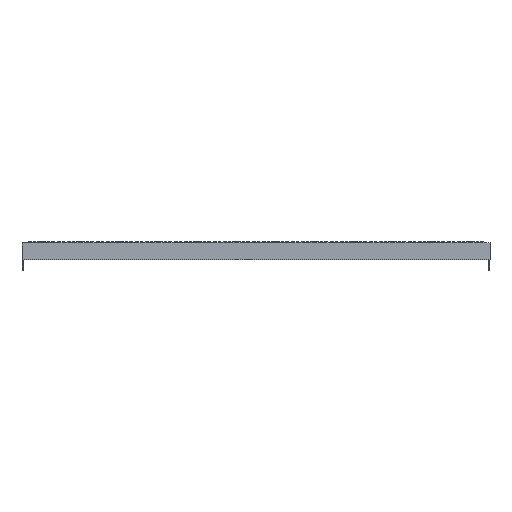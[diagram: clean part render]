
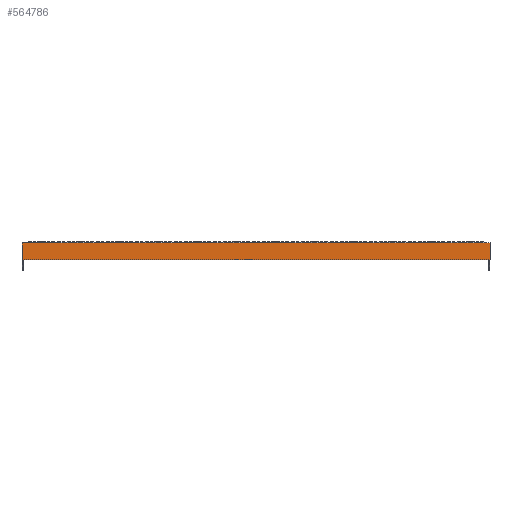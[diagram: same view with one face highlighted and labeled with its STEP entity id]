
A CAD part, front view. The second image highlights one B-rep face of the part: STEP entity #564786.
In plain terms, the highlighted planar face has unit normal (0, -1, 0).
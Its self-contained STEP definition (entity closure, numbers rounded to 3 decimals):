
#564786 = ADVANCED_FACE('',(#564787),#564801,.T.);
#564787 = FACE_BOUND('',#564788,.T.);
#564788 = EDGE_LOOP('',(#564789,#564812,#564828,#564844));
#564789 = ORIENTED_EDGE('',*,*,#564790,.T.);
#564790 = EDGE_CURVE('',#564791,#564793,#564795,.T.);
#564791 = VERTEX_POINT('',#564792);
#564792 = CARTESIAN_POINT('',(7200.,8720.,
    0.));
#564793 = VERTEX_POINT('',#564794);
#564794 = CARTESIAN_POINT('',(6000.,8720.,
    0.));
#564795 = SURFACE_CURVE('',#564796,(#564800),.PCURVE_S1.);
#564796 = LINE('',#564797,#564798);
#564797 = CARTESIAN_POINT('',(7200.,8720.,
    0.));
#564798 = VECTOR('',#564799,1.);
#564799 = DIRECTION('',(-1.,0.,0.));
#564800 = PCURVE('',#564801,#564806);
#564801 = PLANE('',#564802);
#564802 = AXIS2_PLACEMENT_3D('',#564803,#564804,#564805);
#564803 = CARTESIAN_POINT('',(6600.,8720.,
    -21.25));
#564804 = DIRECTION('',(0.,-1.,0.));
#564805 = DIRECTION('',(0.,0.,-1.));
#564806 = DEFINITIONAL_REPRESENTATION('',(#564807),#564811);
#564807 = LINE('',#564808,#564809);
#564808 = CARTESIAN_POINT('',(-21.25,600.));
#564809 = VECTOR('',#564810,1.);
#564810 = DIRECTION('',(0.,-1.));
#564811 = ( GEOMETRIC_REPRESENTATION_CONTEXT(2) 
PARAMETRIC_REPRESENTATION_CONTEXT() REPRESENTATION_CONTEXT('2D SPACE',''
  ) );
#564812 = ORIENTED_EDGE('',*,*,#564813,.T.);
#564813 = EDGE_CURVE('',#564793,#564814,#564816,.T.);
#564814 = VERTEX_POINT('',#564815);
#564815 = CARTESIAN_POINT('',(6000.,8720.,-42.5)
  );
#564816 = SURFACE_CURVE('',#564817,(#564821),.PCURVE_S1.);
#564817 = LINE('',#564818,#564819);
#564818 = CARTESIAN_POINT('',(6000.,8720.,
    0.));
#564819 = VECTOR('',#564820,1.);
#564820 = DIRECTION('',(0.,0.,-1.));
#564821 = PCURVE('',#564801,#564822);
#564822 = DEFINITIONAL_REPRESENTATION('',(#564823),#564827);
#564823 = LINE('',#564824,#564825);
#564824 = CARTESIAN_POINT('',(-21.25,-600.));
#564825 = VECTOR('',#564826,1.);
#564826 = DIRECTION('',(1.,0.));
#564827 = ( GEOMETRIC_REPRESENTATION_CONTEXT(2) 
PARAMETRIC_REPRESENTATION_CONTEXT() REPRESENTATION_CONTEXT('2D SPACE',''
  ) );
#564828 = ORIENTED_EDGE('',*,*,#564829,.T.);
#564829 = EDGE_CURVE('',#564814,#564830,#564832,.T.);
#564830 = VERTEX_POINT('',#564831);
#564831 = CARTESIAN_POINT('',(7200.,8720.,
    -42.5));
#564832 = SURFACE_CURVE('',#564833,(#564837),.PCURVE_S1.);
#564833 = LINE('',#564834,#564835);
#564834 = CARTESIAN_POINT('',(6000.,8720.,-42.5)
  );
#564835 = VECTOR('',#564836,1.);
#564836 = DIRECTION('',(1.,0.,0.));
#564837 = PCURVE('',#564801,#564838);
#564838 = DEFINITIONAL_REPRESENTATION('',(#564839),#564843);
#564839 = LINE('',#564840,#564841);
#564840 = CARTESIAN_POINT('',(21.25,-600.));
#564841 = VECTOR('',#564842,1.);
#564842 = DIRECTION('',(0.,1.));
#564843 = ( GEOMETRIC_REPRESENTATION_CONTEXT(2) 
PARAMETRIC_REPRESENTATION_CONTEXT() REPRESENTATION_CONTEXT('2D SPACE',''
  ) );
#564844 = ORIENTED_EDGE('',*,*,#564845,.T.);
#564845 = EDGE_CURVE('',#564830,#564791,#564846,.T.);
#564846 = SURFACE_CURVE('',#564847,(#564851),.PCURVE_S1.);
#564847 = LINE('',#564848,#564849);
#564848 = CARTESIAN_POINT('',(7200.,8720.,
    -42.5));
#564849 = VECTOR('',#564850,1.);
#564850 = DIRECTION('',(0.,0.,1.));
#564851 = PCURVE('',#564801,#564852);
#564852 = DEFINITIONAL_REPRESENTATION('',(#564853),#564857);
#564853 = LINE('',#564854,#564855);
#564854 = CARTESIAN_POINT('',(21.25,600.));
#564855 = VECTOR('',#564856,1.);
#564856 = DIRECTION('',(-1.,0.));
#564857 = ( GEOMETRIC_REPRESENTATION_CONTEXT(2) 
PARAMETRIC_REPRESENTATION_CONTEXT() REPRESENTATION_CONTEXT('2D SPACE',''
  ) );
